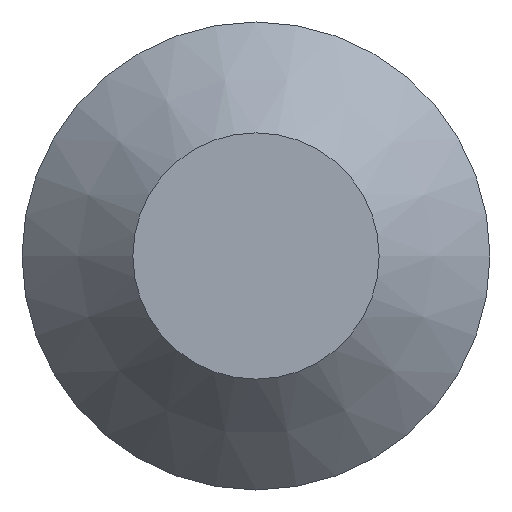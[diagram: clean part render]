
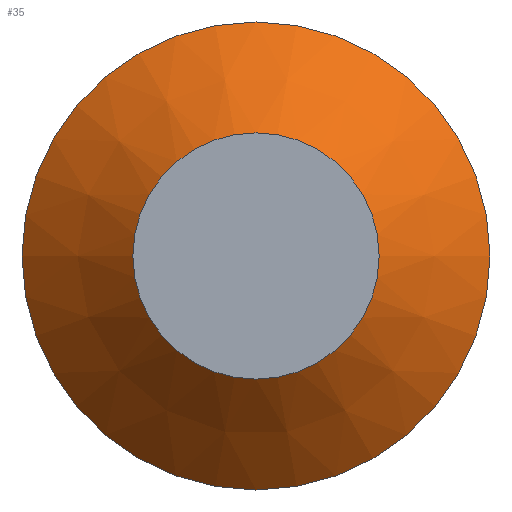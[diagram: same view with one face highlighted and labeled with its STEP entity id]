
A CAD part, front view. The second image highlights one B-rep face of the part: STEP entity #35.
In plain terms, the highlighted conical face has half-angle 45 degrees and reference radius 1.9 mm.
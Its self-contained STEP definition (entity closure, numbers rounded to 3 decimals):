
#35 = ADVANCED_FACE('',(#36),#49,.T.);
#36 = FACE_BOUND('',#37,.T.);
#37 = EDGE_LOOP('',(#38,#71,#94,#121));
#38 = ORIENTED_EDGE('',*,*,#39,.F.);
#39 = EDGE_CURVE('',#40,#40,#42,.T.);
#40 = VERTEX_POINT('',#41);
#41 = CARTESIAN_POINT('',(1.,0.,0.9));
#42 = SURFACE_CURVE('',#43,(#48,#60),.PCURVE_S1.);
#43 = CIRCLE('',#44,1.);
#44 = AXIS2_PLACEMENT_3D('',#45,#46,#47);
#45 = CARTESIAN_POINT('',(0.,0.,0.9));
#46 = DIRECTION('',(0.,0.,1.));
#47 = DIRECTION('',(1.,0.,-0.));
#48 = PCURVE('',#49,#54);
#49 = CONICAL_SURFACE('',#50,1.9,0.785);
#50 = AXIS2_PLACEMENT_3D('',#51,#52,#53);
#51 = CARTESIAN_POINT('',(0.,0.,0.));
#52 = DIRECTION('',(-0.,-0.,-1.));
#53 = DIRECTION('',(1.,0.,-0.));
#54 = DEFINITIONAL_REPRESENTATION('',(#55),#59);
#55 = LINE('',#56,#57);
#56 = CARTESIAN_POINT('',(-0.,-0.9));
#57 = VECTOR('',#58,1.);
#58 = DIRECTION('',(-1.,-0.));
#59 = ( GEOMETRIC_REPRESENTATION_CONTEXT(2) 
PARAMETRIC_REPRESENTATION_CONTEXT() REPRESENTATION_CONTEXT('2D SPACE',''
  ) );
#60 = PCURVE('',#61,#66);
#61 = CYLINDRICAL_SURFACE('',#62,1.);
#62 = AXIS2_PLACEMENT_3D('',#63,#64,#65);
#63 = CARTESIAN_POINT('',(0.,0.,0.9));
#64 = DIRECTION('',(0.,0.,1.));
#65 = DIRECTION('',(1.,0.,-0.));
#66 = DEFINITIONAL_REPRESENTATION('',(#67),#70);
#67 = B_SPLINE_CURVE_WITH_KNOTS('',1,(#68,#69),.UNSPECIFIED.,.F.,.F.,(2,
    2),(0.,6.283),.PIECEWISE_BEZIER_KNOTS.);
#68 = CARTESIAN_POINT('',(0.,0.));
#69 = CARTESIAN_POINT('',(6.283,0.));
#70 = ( GEOMETRIC_REPRESENTATION_CONTEXT(2) 
PARAMETRIC_REPRESENTATION_CONTEXT() REPRESENTATION_CONTEXT('2D SPACE',''
  ) );
#71 = ORIENTED_EDGE('',*,*,#72,.F.);
#72 = EDGE_CURVE('',#73,#40,#75,.T.);
#73 = VERTEX_POINT('',#74);
#74 = CARTESIAN_POINT('',(1.9,0.,0.));
#75 = SEAM_CURVE('',#76,(#80,#87),.PCURVE_S1.);
#76 = LINE('',#77,#78);
#77 = CARTESIAN_POINT('',(1.9,0.,0.));
#78 = VECTOR('',#79,1.);
#79 = DIRECTION('',(-0.707,0.,0.707));
#80 = PCURVE('',#49,#81);
#81 = DEFINITIONAL_REPRESENTATION('',(#82),#86);
#82 = LINE('',#83,#84);
#83 = CARTESIAN_POINT('',(-6.283,0.));
#84 = VECTOR('',#85,1.);
#85 = DIRECTION('',(-0.,-1.));
#86 = ( GEOMETRIC_REPRESENTATION_CONTEXT(2) 
PARAMETRIC_REPRESENTATION_CONTEXT() REPRESENTATION_CONTEXT('2D SPACE',''
  ) );
#87 = PCURVE('',#49,#88);
#88 = DEFINITIONAL_REPRESENTATION('',(#89),#93);
#89 = LINE('',#90,#91);
#90 = CARTESIAN_POINT('',(0.,-0.));
#91 = VECTOR('',#92,1.);
#92 = DIRECTION('',(-0.,-1.));
#93 = ( GEOMETRIC_REPRESENTATION_CONTEXT(2) 
PARAMETRIC_REPRESENTATION_CONTEXT() REPRESENTATION_CONTEXT('2D SPACE',''
  ) );
#94 = ORIENTED_EDGE('',*,*,#95,.T.);
#95 = EDGE_CURVE('',#73,#73,#96,.T.);
#96 = SURFACE_CURVE('',#97,(#102,#109),.PCURVE_S1.);
#97 = CIRCLE('',#98,1.9);
#98 = AXIS2_PLACEMENT_3D('',#99,#100,#101);
#99 = CARTESIAN_POINT('',(0.,0.,0.));
#100 = DIRECTION('',(0.,0.,1.));
#101 = DIRECTION('',(1.,0.,-0.));
#102 = PCURVE('',#49,#103);
#103 = DEFINITIONAL_REPRESENTATION('',(#104),#108);
#104 = LINE('',#105,#106);
#105 = CARTESIAN_POINT('',(-0.,-0.));
#106 = VECTOR('',#107,1.);
#107 = DIRECTION('',(-1.,-0.));
#108 = ( GEOMETRIC_REPRESENTATION_CONTEXT(2) 
PARAMETRIC_REPRESENTATION_CONTEXT() REPRESENTATION_CONTEXT('2D SPACE',''
  ) );
#109 = PCURVE('',#110,#115);
#110 = PLANE('',#111);
#111 = AXIS2_PLACEMENT_3D('',#112,#113,#114);
#112 = CARTESIAN_POINT('',(0.,0.,0.));
#113 = DIRECTION('',(0.,0.,1.));
#114 = DIRECTION('',(1.,0.,-0.));
#115 = DEFINITIONAL_REPRESENTATION('',(#116),#120);
#116 = CIRCLE('',#117,1.9);
#117 = AXIS2_PLACEMENT_2D('',#118,#119);
#118 = CARTESIAN_POINT('',(0.,0.));
#119 = DIRECTION('',(1.,0.));
#120 = ( GEOMETRIC_REPRESENTATION_CONTEXT(2) 
PARAMETRIC_REPRESENTATION_CONTEXT() REPRESENTATION_CONTEXT('2D SPACE',''
  ) );
#121 = ORIENTED_EDGE('',*,*,#72,.T.);
